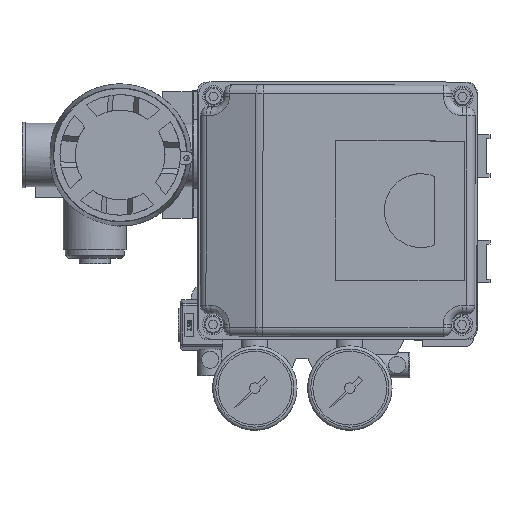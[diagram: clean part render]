
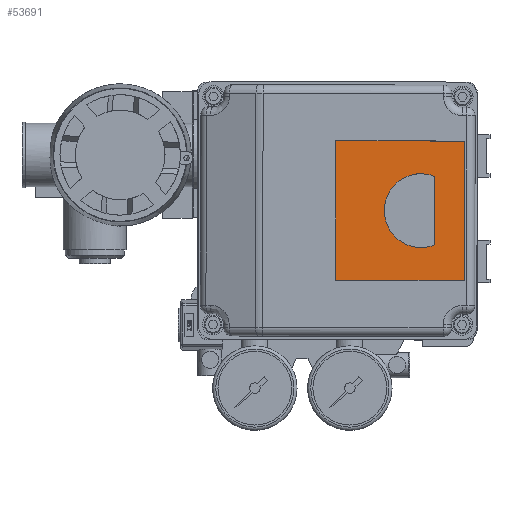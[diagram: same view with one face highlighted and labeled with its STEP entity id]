
A CAD part, top view. The second image highlights one B-rep face of the part: STEP entity #53691.
In plain terms, the highlighted planar face has unit normal (0, 0, 1).
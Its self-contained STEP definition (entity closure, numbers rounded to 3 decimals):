
#49636 = CYLINDRICAL_SURFACE('',#49637,17.501);
#49637 = AXIS2_PLACEMENT_3D('',#49638,#49639,#49640);
#49638 = CARTESIAN_POINT('',(39.622,0.035,170.225)
  );
#49639 = DIRECTION('',(0.,0.,1.));
#49640 = DIRECTION('',(0.002,1.,
    0.));
#49662 = PLANE('',#49663);
#49663 = AXIS2_PLACEMENT_3D('',#49664,#49665,#49666);
#49664 = CARTESIAN_POINT('',(46.15,16.273,170.225));
#49665 = DIRECTION('',(1.,-0.002,
    0.));
#49666 = DIRECTION('',(0.,0.,1.));
#49677 = EDGE_CURVE('',#49678,#49680,#49682,.T.);
#49678 = VERTEX_POINT('',#49679);
#49679 = CARTESIAN_POINT('',(46.092,-16.227,86.8));
#49680 = VERTEX_POINT('',#49681);
#49681 = CARTESIAN_POINT('',(46.15,16.273,86.8));
#49682 = SURFACE_CURVE('',#49683,(#49688,#49695),.PCURVE_S1.);
#49683 = CIRCLE('',#49684,17.501);
#49684 = AXIS2_PLACEMENT_3D('',#49685,#49686,#49687);
#49685 = CARTESIAN_POINT('',(39.622,0.035,86.8));
#49686 = DIRECTION('',(0.,0.,-1.));
#49687 = DIRECTION('',(0.002,1.,
    0.));
#49688 = PCURVE('',#49636,#49689);
#49689 = DEFINITIONAL_REPRESENTATION('',(#49690),#49694);
#49690 = LINE('',#49691,#49692);
#49691 = CARTESIAN_POINT('',(6.283,-83.425));
#49692 = VECTOR('',#49693,1.);
#49693 = DIRECTION('',(-1.,0.));
#49694 = ( GEOMETRIC_REPRESENTATION_CONTEXT(2) 
PARAMETRIC_REPRESENTATION_CONTEXT() REPRESENTATION_CONTEXT('2D SPACE',''
  ) );
#49695 = PCURVE('',#49696,#49701);
#49696 = PLANE('',#49697);
#49697 = AXIS2_PLACEMENT_3D('',#49698,#49699,#49700);
#49698 = CARTESIAN_POINT('',(60.18,32.998,86.8));
#49699 = DIRECTION('',(0.,0.,-1.));
#49700 = DIRECTION('',(0.002,1.,
    0.));
#49701 = DEFINITIONAL_REPRESENTATION('',(#49702),#49706);
#49702 = CIRCLE('',#49703,17.501);
#49703 = AXIS2_PLACEMENT_2D('',#49704,#49705);
#49704 = CARTESIAN_POINT('',(-33.,-20.499));
#49705 = DIRECTION('',(1.,0.));
#49706 = ( GEOMETRIC_REPRESENTATION_CONTEXT(2) 
PARAMETRIC_REPRESENTATION_CONTEXT() REPRESENTATION_CONTEXT('2D SPACE',''
  ) );
#49757 = EDGE_CURVE('',#49678,#49680,#49758,.T.);
#49758 = SURFACE_CURVE('',#49759,(#49763,#49770),.PCURVE_S1.);
#49759 = LINE('',#49760,#49761);
#49760 = CARTESIAN_POINT('',(46.15,16.273,86.8));
#49761 = VECTOR('',#49762,1.);
#49762 = DIRECTION('',(0.002,1.,0.));
#49763 = PCURVE('',#49662,#49764);
#49764 = DEFINITIONAL_REPRESENTATION('',(#49765),#49769);
#49765 = LINE('',#49766,#49767);
#49766 = CARTESIAN_POINT('',(-83.425,0.));
#49767 = VECTOR('',#49768,1.);
#49768 = DIRECTION('',(0.,-1.));
#49769 = ( GEOMETRIC_REPRESENTATION_CONTEXT(2) 
PARAMETRIC_REPRESENTATION_CONTEXT() REPRESENTATION_CONTEXT('2D SPACE',''
  ) );
#49770 = PCURVE('',#49696,#49771);
#49771 = DEFINITIONAL_REPRESENTATION('',(#49772),#49776);
#49772 = LINE('',#49773,#49774);
#49773 = CARTESIAN_POINT('',(-16.75,-14.));
#49774 = VECTOR('',#49775,1.);
#49775 = DIRECTION('',(1.,0.));
#49776 = ( GEOMETRIC_REPRESENTATION_CONTEXT(2) 
PARAMETRIC_REPRESENTATION_CONTEXT() REPRESENTATION_CONTEXT('2D SPACE',''
  ) );
#50397 = PLANE('',#50398);
#50398 = AXIS2_PLACEMENT_3D('',#50399,#50400,#50401);
#50399 = CARTESIAN_POINT('',(-0.938,-32.892,87.5));
#50400 = DIRECTION('',(-1.,0.002,
    0.));
#50401 = DIRECTION('',(0.,0.,-1.));
#50422 = VERTEX_POINT('',#50423);
#50423 = CARTESIAN_POINT('',(-0.938,-32.892,86.8));
#50437 = PLANE('',#50438);
#50438 = AXIS2_PLACEMENT_3D('',#50439,#50440,#50441);
#50439 = CARTESIAN_POINT('',(-0.938,-32.892,87.5));
#50440 = DIRECTION('',(-0.002,-1.,
    0.));
#50441 = DIRECTION('',(0.,0.,-1.));
#50449 = EDGE_CURVE('',#50422,#50450,#50452,.T.);
#50450 = VERTEX_POINT('',#50451);
#50451 = CARTESIAN_POINT('',(-0.82,33.108,86.8));
#50452 = SURFACE_CURVE('',#50453,(#50457,#50464),.PCURVE_S1.);
#50453 = LINE('',#50454,#50455);
#50454 = CARTESIAN_POINT('',(-0.82,33.108,86.8));
#50455 = VECTOR('',#50456,1.);
#50456 = DIRECTION('',(0.002,1.,0.));
#50457 = PCURVE('',#50397,#50458);
#50458 = DEFINITIONAL_REPRESENTATION('',(#50459),#50463);
#50459 = LINE('',#50460,#50461);
#50460 = CARTESIAN_POINT('',(0.7,-66.));
#50461 = VECTOR('',#50462,1.);
#50462 = DIRECTION('',(0.,-1.));
#50463 = ( GEOMETRIC_REPRESENTATION_CONTEXT(2) 
PARAMETRIC_REPRESENTATION_CONTEXT() REPRESENTATION_CONTEXT('2D SPACE',''
  ) );
#50464 = PCURVE('',#49696,#50465);
#50465 = DEFINITIONAL_REPRESENTATION('',(#50466),#50470);
#50466 = LINE('',#50467,#50468);
#50467 = CARTESIAN_POINT('',(0.,-61.));
#50468 = VECTOR('',#50469,1.);
#50469 = DIRECTION('',(1.,0.));
#50470 = ( GEOMETRIC_REPRESENTATION_CONTEXT(2) 
PARAMETRIC_REPRESENTATION_CONTEXT() REPRESENTATION_CONTEXT('2D SPACE',''
  ) );
#50486 = PLANE('',#50487);
#50487 = AXIS2_PLACEMENT_3D('',#50488,#50489,#50490);
#50488 = CARTESIAN_POINT('',(-0.82,33.108,87.5));
#50489 = DIRECTION('',(0.002,1.,
    0.));
#50490 = DIRECTION('',(0.,0.,1.));
#53691 = ADVANCED_FACE('',(#53692,#53767),#49696,.F.);
#53692 = FACE_BOUND('',#53693,.T.);
#53693 = EDGE_LOOP('',(#53694,#53717,#53718,#53741));
#53694 = ORIENTED_EDGE('',*,*,#53695,.F.);
#53695 = EDGE_CURVE('',#50450,#53696,#53698,.T.);
#53696 = VERTEX_POINT('',#53697);
#53697 = CARTESIAN_POINT('',(60.18,32.998,86.8));
#53698 = SURFACE_CURVE('',#53699,(#53703,#53710),.PCURVE_S1.);
#53699 = LINE('',#53700,#53701);
#53700 = CARTESIAN_POINT('',(60.18,32.998,86.8));
#53701 = VECTOR('',#53702,1.);
#53702 = DIRECTION('',(1.,-0.002,0.));
#53703 = PCURVE('',#49696,#53704);
#53704 = DEFINITIONAL_REPRESENTATION('',(#53705),#53709);
#53705 = LINE('',#53706,#53707);
#53706 = CARTESIAN_POINT('',(0.,0.));
#53707 = VECTOR('',#53708,1.);
#53708 = DIRECTION('',(0.,1.));
#53709 = ( GEOMETRIC_REPRESENTATION_CONTEXT(2) 
PARAMETRIC_REPRESENTATION_CONTEXT() REPRESENTATION_CONTEXT('2D SPACE',''
  ) );
#53710 = PCURVE('',#50486,#53711);
#53711 = DEFINITIONAL_REPRESENTATION('',(#53712),#53716);
#53712 = LINE('',#53713,#53714);
#53713 = CARTESIAN_POINT('',(-0.7,61.));
#53714 = VECTOR('',#53715,1.);
#53715 = DIRECTION('',(0.,1.));
#53716 = ( GEOMETRIC_REPRESENTATION_CONTEXT(2) 
PARAMETRIC_REPRESENTATION_CONTEXT() REPRESENTATION_CONTEXT('2D SPACE',''
  ) );
#53717 = ORIENTED_EDGE('',*,*,#50449,.F.);
#53718 = ORIENTED_EDGE('',*,*,#53719,.F.);
#53719 = EDGE_CURVE('',#53720,#50422,#53722,.T.);
#53720 = VERTEX_POINT('',#53721);
#53721 = CARTESIAN_POINT('',(60.062,-33.002,86.8));
#53722 = SURFACE_CURVE('',#53723,(#53727,#53734),.PCURVE_S1.);
#53723 = LINE('',#53724,#53725);
#53724 = CARTESIAN_POINT('',(60.062,-33.002,86.8));
#53725 = VECTOR('',#53726,1.);
#53726 = DIRECTION('',(-1.,0.002,0.));
#53727 = PCURVE('',#49696,#53728);
#53728 = DEFINITIONAL_REPRESENTATION('',(#53729),#53733);
#53729 = LINE('',#53730,#53731);
#53730 = CARTESIAN_POINT('',(-66.,0.));
#53731 = VECTOR('',#53732,1.);
#53732 = DIRECTION('',(0.,-1.));
#53733 = ( GEOMETRIC_REPRESENTATION_CONTEXT(2) 
PARAMETRIC_REPRESENTATION_CONTEXT() REPRESENTATION_CONTEXT('2D SPACE',''
  ) );
#53734 = PCURVE('',#50437,#53735);
#53735 = DEFINITIONAL_REPRESENTATION('',(#53736),#53740);
#53736 = LINE('',#53737,#53738);
#53737 = CARTESIAN_POINT('',(0.7,61.));
#53738 = VECTOR('',#53739,1.);
#53739 = DIRECTION('',(0.,-1.));
#53740 = ( GEOMETRIC_REPRESENTATION_CONTEXT(2) 
PARAMETRIC_REPRESENTATION_CONTEXT() REPRESENTATION_CONTEXT('2D SPACE',''
  ) );
#53741 = ORIENTED_EDGE('',*,*,#53742,.F.);
#53742 = EDGE_CURVE('',#53696,#53720,#53743,.T.);
#53743 = SURFACE_CURVE('',#53744,(#53748,#53755),.PCURVE_S1.);
#53744 = LINE('',#53745,#53746);
#53745 = CARTESIAN_POINT('',(60.18,32.998,86.8));
#53746 = VECTOR('',#53747,1.);
#53747 = DIRECTION('',(-0.002,-1.,0.));
#53748 = PCURVE('',#49696,#53749);
#53749 = DEFINITIONAL_REPRESENTATION('',(#53750),#53754);
#53750 = LINE('',#53751,#53752);
#53751 = CARTESIAN_POINT('',(0.,0.));
#53752 = VECTOR('',#53753,1.);
#53753 = DIRECTION('',(-1.,0.));
#53754 = ( GEOMETRIC_REPRESENTATION_CONTEXT(2) 
PARAMETRIC_REPRESENTATION_CONTEXT() REPRESENTATION_CONTEXT('2D SPACE',''
  ) );
#53755 = PCURVE('',#53756,#53761);
#53756 = PLANE('',#53757);
#53757 = AXIS2_PLACEMENT_3D('',#53758,#53759,#53760);
#53758 = CARTESIAN_POINT('',(60.062,-33.002,87.5));
#53759 = DIRECTION('',(1.,-0.002,
    0.));
#53760 = DIRECTION('',(0.,0.,1.));
#53761 = DEFINITIONAL_REPRESENTATION('',(#53762),#53766);
#53762 = LINE('',#53763,#53764);
#53763 = CARTESIAN_POINT('',(-0.7,-66.));
#53764 = VECTOR('',#53765,1.);
#53765 = DIRECTION('',(0.,1.));
#53766 = ( GEOMETRIC_REPRESENTATION_CONTEXT(2) 
PARAMETRIC_REPRESENTATION_CONTEXT() REPRESENTATION_CONTEXT('2D SPACE',''
  ) );
#53767 = FACE_BOUND('',#53768,.T.);
#53768 = EDGE_LOOP('',(#53769,#53770));
#53769 = ORIENTED_EDGE('',*,*,#49757,.F.);
#53770 = ORIENTED_EDGE('',*,*,#49677,.T.);
